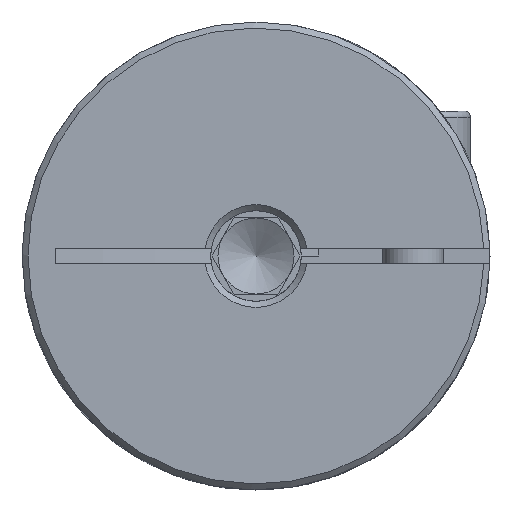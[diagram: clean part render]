
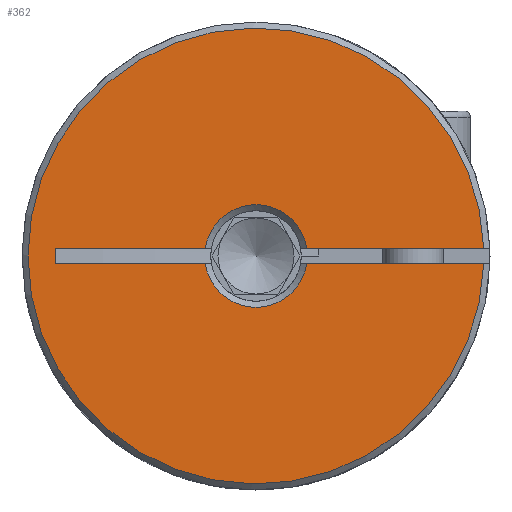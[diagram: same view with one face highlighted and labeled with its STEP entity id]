
A CAD part, left-side view. The second image highlights one B-rep face of the part: STEP entity #362.
In plain terms, the highlighted planar face has unit normal (-1, 0, 0).
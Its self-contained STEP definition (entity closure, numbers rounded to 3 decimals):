
#362 = ADVANCED_FACE( 'NONE', ( #822 ), #823, .F. );
#822 = FACE_OUTER_BOUND( '', #1510, .T. );
#823 = PLANE( '', #1511 );
#1510 = EDGE_LOOP( '', ( #2285, #2286, #2287, #2288, #2289, #2290, #2291, #2292 ) );
#1511 = AXIS2_PLACEMENT_3D( '', #2293, #2294, #2295 );
#2285 = ORIENTED_EDGE( '', *, *, #3355, .T. );
#2286 = ORIENTED_EDGE( '', *, *, #3366, .T. );
#2287 = ORIENTED_EDGE( '', *, *, #3315, .T. );
#2288 = ORIENTED_EDGE( '', *, *, #3367, .T. );
#2289 = ORIENTED_EDGE( '', *, *, #3368, .F. );
#2290 = ORIENTED_EDGE( '', *, *, #3369, .T. );
#2291 = ORIENTED_EDGE( '', *, *, #3370, .F. );
#2292 = ORIENTED_EDGE( '', *, *, #3371, .T. );
#2293 = CARTESIAN_POINT( '', ( 0., 1.5, 0. ) );
#2294 = DIRECTION( '', ( 1., 0., 0. ) );
#2295 = DIRECTION( '', ( 0., 1., 0. ) );
#3315 = EDGE_CURVE( 'NONE', #3795, #3796, #3797, .T. );
#3355 = EDGE_CURVE( 'NONE', #3862, #3860, #3863, .T. );
#3366 = EDGE_CURVE( 'NONE', #3860, #3795, #3879, .T. );
#3367 = EDGE_CURVE( 'NONE', #3796, #3880, #3881, .F. );
#3368 = EDGE_CURVE( 'NONE', #3882, #3880, #3883, .F. );
#3369 = EDGE_CURVE( 'NONE', #3882, #3884, #3885, .T. );
#3370 = EDGE_CURVE( 'NONE', #3886, #3884, #3887, .F. );
#3371 = EDGE_CURVE( 'NONE', #3886, #3862, #3888, .T. );
#3795 = VERTEX_POINT( 'NONE', #4501 );
#3796 = VERTEX_POINT( 'NONE', #4502 );
#3797 = LINE( '', #4503, #4504 );
#3860 = VERTEX_POINT( 'NONE', #4586 );
#3862 = VERTEX_POINT( 'NONE', #4591 );
#3863 = LINE( '', #4592, #4593 );
#3879 = CIRCLE( '', #4609, 1.7 );
#3880 = VERTEX_POINT( 'NONE', #4610 );
#3881 = CIRCLE( '', #4611, 7.55 );
#3882 = VERTEX_POINT( 'NONE', #4612 );
#3883 = LINE( '', #4613, #4614 );
#3884 = VERTEX_POINT( 'NONE', #4615 );
#3885 = CIRCLE( '', #4616, 1.7 );
#3886 = VERTEX_POINT( 'NONE', #4617 );
#3887 = LINE( '', #4618, #4619 );
#3888 = LINE( '', #4620, #4621 );
#4501 = CARTESIAN_POINT( '', ( 0., -1.682, 0.25 ) );
#4502 = CARTESIAN_POINT( '', ( 0., -7.546, 0.25 ) );
#4503 = CARTESIAN_POINT( '', ( 0., 1.5, 0.25 ) );
#4504 = VECTOR( '', #5188, 1000. );
#4586 = CARTESIAN_POINT( '', ( 0., 1.682, 0.25 ) );
#4591 = CARTESIAN_POINT( '', ( 0., 6.624, 0.25 ) );
#4592 = CARTESIAN_POINT( '', ( 0., 1.5, 0.25 ) );
#4593 = VECTOR( '', #5241, 1000. );
#4609 = AXIS2_PLACEMENT_3D( '', #5260, #5261, #5262 );
#4610 = CARTESIAN_POINT( '', ( 0., -7.546, -0.25 ) );
#4611 = AXIS2_PLACEMENT_3D( '', #5263, #5264, #5265 );
#4612 = CARTESIAN_POINT( '', ( 0., -1.682, -0.25 ) );
#4613 = CARTESIAN_POINT( '', ( 0., -4.5, -0.25 ) );
#4614 = VECTOR( '', #5266, 1000. );
#4615 = CARTESIAN_POINT( '', ( 0., 1.682, -0.25 ) );
#4616 = AXIS2_PLACEMENT_3D( '', #5267, #5268, #5269 );
#4617 = CARTESIAN_POINT( '', ( 0., 6.624, -0.25 ) );
#4618 = CARTESIAN_POINT( '', ( 0., -4.5, -0.25 ) );
#4619 = VECTOR( '', #5270, 1000. );
#4620 = CARTESIAN_POINT( '', ( 0., 6.624, -0.25 ) );
#4621 = VECTOR( '', #5271, 1000. );
#5188 = DIRECTION( '', ( 0., -1., 0. ) );
#5241 = DIRECTION( '', ( 0., -1., 0. ) );
#5260 = CARTESIAN_POINT( '', ( 0., 0., 0. ) );
#5261 = DIRECTION( '', ( 1., 0., 0. ) );
#5262 = DIRECTION( '', ( 0., 0., -1. ) );
#5263 = CARTESIAN_POINT( '', ( 0., 0., 0. ) );
#5264 = DIRECTION( '', ( 1., 0., 0. ) );
#5265 = DIRECTION( '', ( 0., 0., -1. ) );
#5266 = DIRECTION( '', ( 0., 1., 0. ) );
#5267 = CARTESIAN_POINT( '', ( 0., 0., 0. ) );
#5268 = DIRECTION( '', ( 1., 0., 0. ) );
#5269 = DIRECTION( '', ( 0., 0., -1. ) );
#5270 = DIRECTION( '', ( 0., 1., 0. ) );
#5271 = DIRECTION( '', ( 0., 0., 1. ) );
